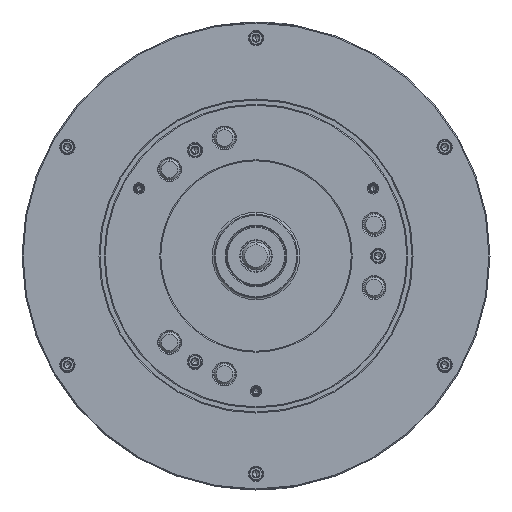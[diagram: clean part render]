
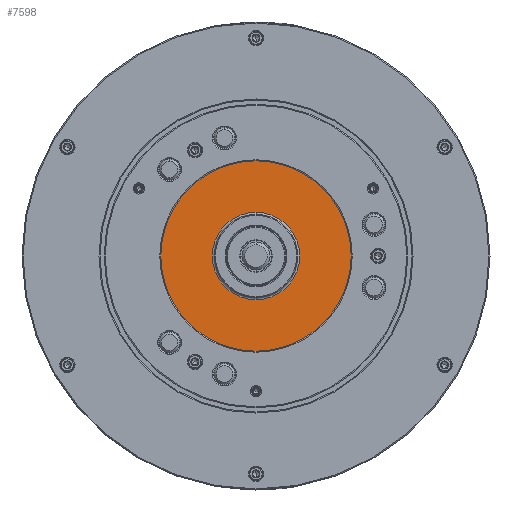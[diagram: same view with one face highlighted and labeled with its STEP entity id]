
A CAD part, left-side view. The second image highlights one B-rep face of the part: STEP entity #7598.
In plain terms, the highlighted planar face has unit normal (-1, 0, 0).
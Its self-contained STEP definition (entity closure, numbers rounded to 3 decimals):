
#7598 = ADVANCED_FACE ( 'NONE', ( #51111, #95104 ), #39358, .F. ) ;
#11482 = EDGE_LOOP ( 'NONE', ( #65134, #64933 ) ) ;
#12211 = CARTESIAN_POINT ( 'NONE',  ( -111.5, 0., 0. ) ) ;
#14229 = EDGE_CURVE ( 'NONE', #82047, #95917, #86621, .T. ) ;
#19122 = DIRECTION ( 'NONE',  ( -1., 0., 0. ) ) ;
#23164 = DIRECTION ( 'NONE',  ( 0., 0., 1. ) ) ;
#29653 = CARTESIAN_POINT ( 'NONE',  ( -111.5, 0., 91.54 ) ) ;
#39358 = PLANE ( 'NONE',  #128421 ) ;
#40071 = DIRECTION ( 'NONE',  ( 0., 0., -1. ) ) ;
#41181 = EDGE_CURVE ( 'NONE', #44034, #64961, #113991, .T. ) ;
#41761 = EDGE_CURVE ( 'NONE', #95917, #82047, #69505, .T. ) ;
#44034 = VERTEX_POINT ( 'NONE', #29653 ) ;
#51111 = FACE_BOUND ( 'NONE', #11482, .T. ) ;
#52664 = CARTESIAN_POINT ( 'NONE',  ( -111.5, 0., 42. ) ) ;
#58647 = AXIS2_PLACEMENT_3D ( 'NONE', #12211, #77432, #23164 ) ;
#58932 = CARTESIAN_POINT ( 'NONE',  ( -111.5, 0., -91.54 ) ) ;
#59085 = DIRECTION ( 'NONE',  ( -1., 0., 0. ) ) ;
#62366 = CARTESIAN_POINT ( 'NONE',  ( -111.5, 0., 0. ) ) ;
#64933 = ORIENTED_EDGE ( 'NONE', *, *, #14229, .F. ) ;
#64961 = VERTEX_POINT ( 'NONE', #58932 ) ;
#65134 = ORIENTED_EDGE ( 'NONE', *, *, #41761, .F. ) ;
#69505 = CIRCLE ( 'NONE', #130058, 42. ) ;
#71550 = ORIENTED_EDGE ( 'NONE', *, *, #41181, .T. ) ;
#75535 = DIRECTION ( 'NONE',  ( 0., 0., 1. ) ) ;
#77432 = DIRECTION ( 'NONE',  ( -1., 0., 0. ) ) ;
#82047 = VERTEX_POINT ( 'NONE', #109172 ) ;
#83428 = CARTESIAN_POINT ( 'NONE',  ( -111.5, 0., 0. ) ) ;
#85598 = DIRECTION ( 'NONE',  ( 0., 0., 1. ) ) ;
#86621 = CIRCLE ( 'NONE', #142811, 42. ) ;
#89659 = EDGE_LOOP ( 'NONE', ( #71550, #105982 ) ) ;
#91409 = CARTESIAN_POINT ( 'NONE',  ( -111.5, 0., 0. ) ) ;
#92973 = AXIS2_PLACEMENT_3D ( 'NONE', #83428, #96627, #85598 ) ;
#95104 = FACE_OUTER_BOUND ( 'NONE', #89659, .T. ) ;
#95832 = DIRECTION ( 'NONE',  ( 1., 0., 0. ) ) ;
#95917 = VERTEX_POINT ( 'NONE', #52664 ) ;
#96627 = DIRECTION ( 'NONE',  ( -1., 0., 0. ) ) ;
#105982 = ORIENTED_EDGE ( 'NONE', *, *, #116955, .T. ) ;
#106811 = CARTESIAN_POINT ( 'NONE',  ( -111.5, 91.54, 0. ) ) ;
#109172 = CARTESIAN_POINT ( 'NONE',  ( -111.5, 0., -42. ) ) ;
#113991 = CIRCLE ( 'NONE', #92973, 91.54 ) ;
#116955 = EDGE_CURVE ( 'NONE', #64961, #44034, #124141, .T. ) ;
#124141 = CIRCLE ( 'NONE', #58647, 91.54 ) ;
#128421 = AXIS2_PLACEMENT_3D ( 'NONE', #106811, #95832, #40071 ) ;
#130058 = AXIS2_PLACEMENT_3D ( 'NONE', #62366, #19122, #75535 ) ;
#138962 = DIRECTION ( 'NONE',  ( 0., 0., 1. ) ) ;
#142811 = AXIS2_PLACEMENT_3D ( 'NONE', #91409, #59085, #138962 ) ;
